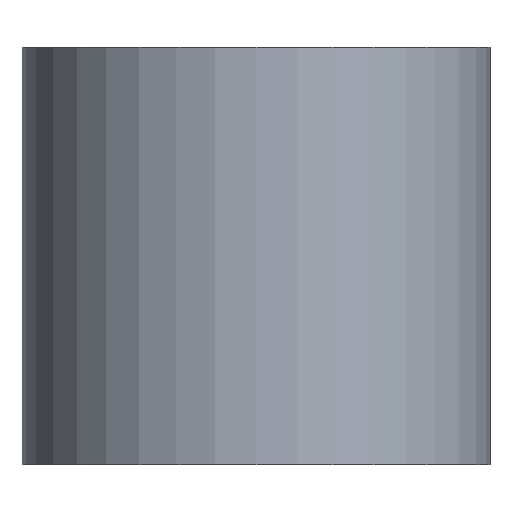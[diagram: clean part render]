
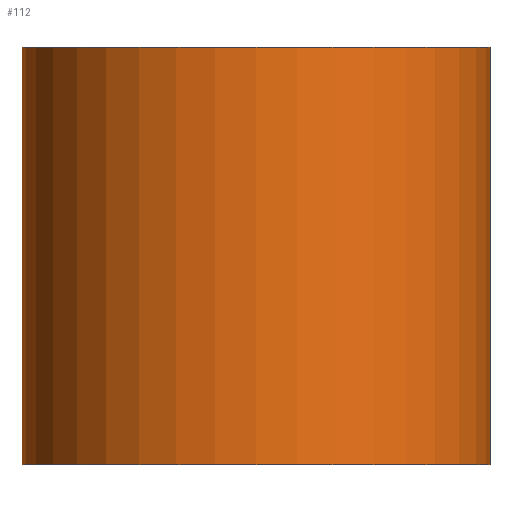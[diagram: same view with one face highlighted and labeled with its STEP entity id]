
A CAD part, front view. The second image highlights one B-rep face of the part: STEP entity #112.
In plain terms, the highlighted cylindrical face has radius 14 mm (diameter 28 mm), a partial arc.
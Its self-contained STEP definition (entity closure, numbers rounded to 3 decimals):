
#112=ADVANCED_FACE('',(#125),#119,.T.);
#119=CYLINDRICAL_SURFACE('',#254,14.);
#125=FACE_OUTER_BOUND('',#135,.T.);
#135=EDGE_LOOP('',(#177,#178,#179,#180));
#149=CIRCLE('',#250,14.);
#151=CIRCLE('',#253,14.);
#177=ORIENTED_EDGE('',*,*,#221,.T.);
#178=ORIENTED_EDGE('',*,*,#222,.F.);
#179=ORIENTED_EDGE('',*,*,#223,.F.);
#180=ORIENTED_EDGE('',*,*,#219,.T.);
#203=VERTEX_POINT('',#344);
#204=VERTEX_POINT('',#345);
#205=VERTEX_POINT('',#349);
#206=VERTEX_POINT('',#351);
#219=EDGE_CURVE('',#203,#204,#149,.T.);
#221=EDGE_CURVE('',#204,#205,#231,.T.);
#222=EDGE_CURVE('',#206,#205,#151,.T.);
#223=EDGE_CURVE('',#203,#206,#232,.T.);
#231=LINE('',#348,#235);
#232=LINE('',#352,#236);
#235=VECTOR('',#298,1.);
#236=VECTOR('',#301,1.);
#250=AXIS2_PLACEMENT_3D('',#343,#292,#293);
#253=AXIS2_PLACEMENT_3D('',#350,#299,#300);
#254=AXIS2_PLACEMENT_3D('',#353,#302,#303);
#292=DIRECTION('',(0.,0.,1.));
#293=DIRECTION('',(0.,1.,0.));
#298=DIRECTION('',(0.,0.,1.));
#299=DIRECTION('',(0.,0.,1.));
#300=DIRECTION('',(0.,1.,0.));
#301=DIRECTION('',(0.,0.,1.));
#302=DIRECTION('',(0.,0.,1.));
#303=DIRECTION('',(0.,-1.,0.));
#343=CARTESIAN_POINT('',(0.,0.,-25.));
#344=CARTESIAN_POINT('',(-14.,0.,-25.));
#345=CARTESIAN_POINT('',(14.,0.,-25.));
#348=CARTESIAN_POINT('',(14.,0.,0.));
#349=CARTESIAN_POINT('',(14.,0.,0.));
#350=CARTESIAN_POINT('',(0.,0.,0.));
#351=CARTESIAN_POINT('',(-14.,0.,0.));
#352=CARTESIAN_POINT('',(-14.,0.,0.));
#353=CARTESIAN_POINT('',(0.,0.,-25.));
